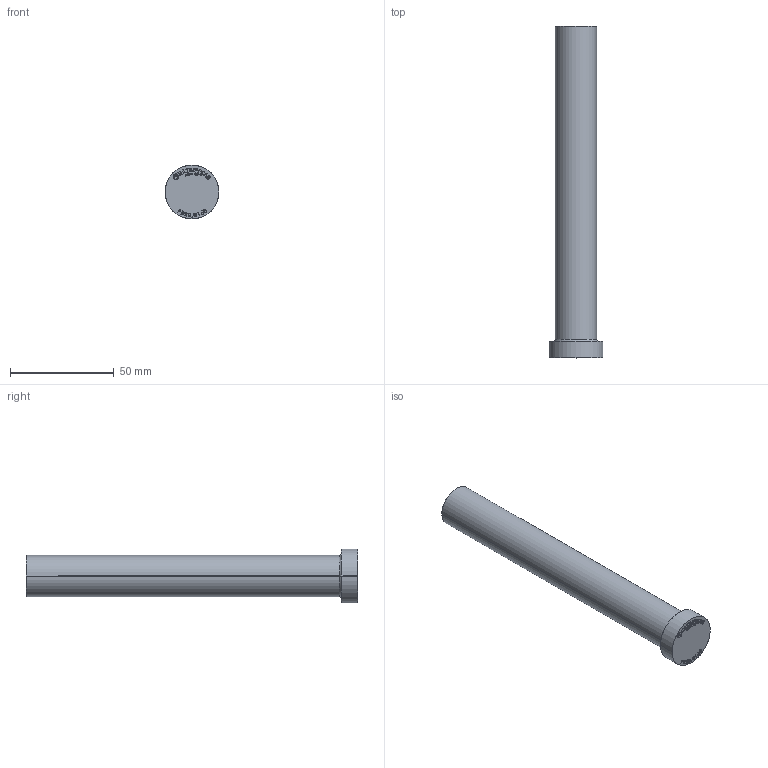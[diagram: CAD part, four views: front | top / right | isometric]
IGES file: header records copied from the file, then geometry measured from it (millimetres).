
Start section: SolidWorks IGES file using analytic representation for surfaces
Global section: file name: C:\Users\User\Downloads\Matripeça 31-08 tar\PB - PINO EXTRATOR TIPO _B_ (CATÁLOGO)\PB20,0\PB20,0160.IGS; native system: SolidWorks 2024; preprocessor: SolidWorks 2024; author: User; date: 260901.155459; units: millimetre
Bounding box: 26 x 160 x 26 mm (x, y, z)
Surface area: 11259.7 mm2 (no closed solid volume)
Topology: 0 solids, 0 shells, 397 faces, 4379 edges, 4379 vertices
Faces by surface type: bspline 383, revolution 14
